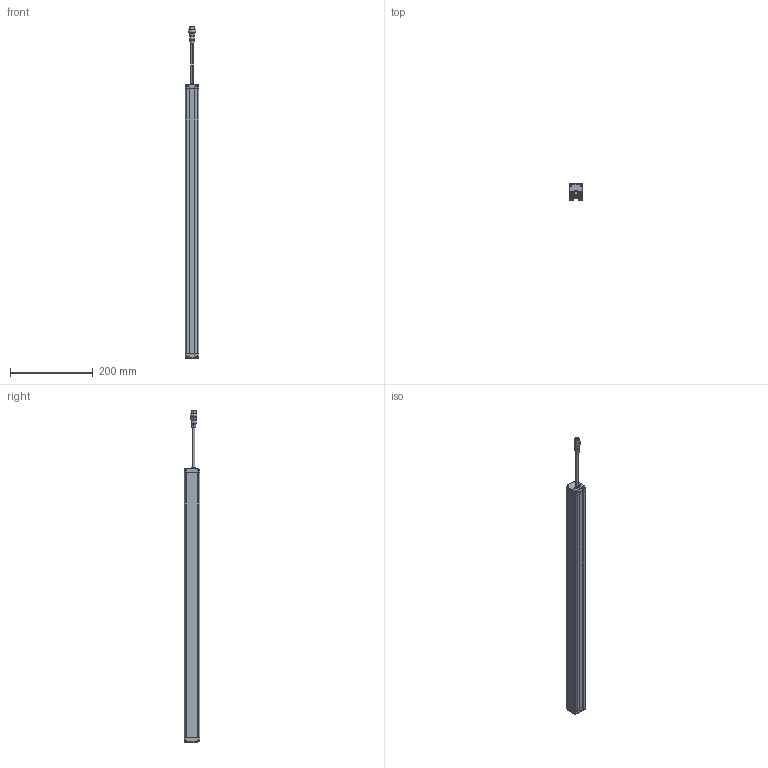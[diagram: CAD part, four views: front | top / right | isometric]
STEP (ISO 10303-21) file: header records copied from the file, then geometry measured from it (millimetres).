
FILE_DESCRIPTION((''),'2;1');
FILE_NAME('PRT0016','2026-03-31T10:52:32',('Administrator'),(''),'CREO PARAMETRIC BY PTC INC, 2016510','CREO PARAMETRIC BY PTC INC, 2016510','');
FILE_SCHEMA(('AUTOMOTIVE_DESIGN { 1 0 10303 214 1 1 1 1 }'));
Length unit declared in the file: millimetre
Products named in the file (1): PRT0016
Bounding box: 33 x 38 x 801.9 mm (x, y, z)
Surface area: 151232.9 mm2 (no closed solid volume)
Topology: 0 solids, 12 shells, 819 faces, 2194 edges, 1394 vertices
Faces by surface type: plane 388, cylinder 235, extrusion 88, sphere 40, torus 36, cone 28, bspline 4
Entity records: 32447 total; most frequent: CARTESIAN_POINT 6124, ORIENTED_EDGE 4284, DIRECTION 4048, EDGE_CURVE 2142, VERTEX_POINT 1394, AXIS2_PLACEMENT_3D 1377, VECTOR 1294, LINE 1206
